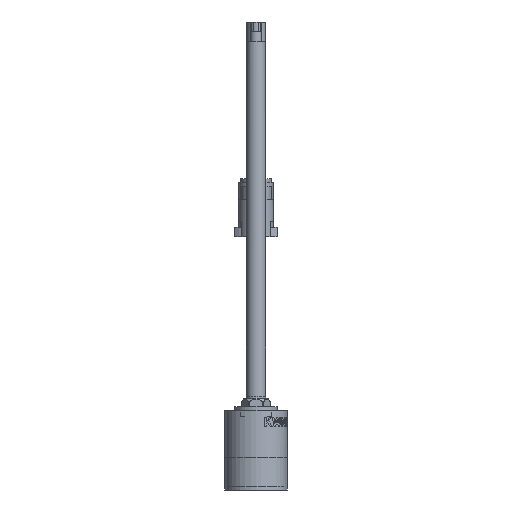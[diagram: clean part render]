
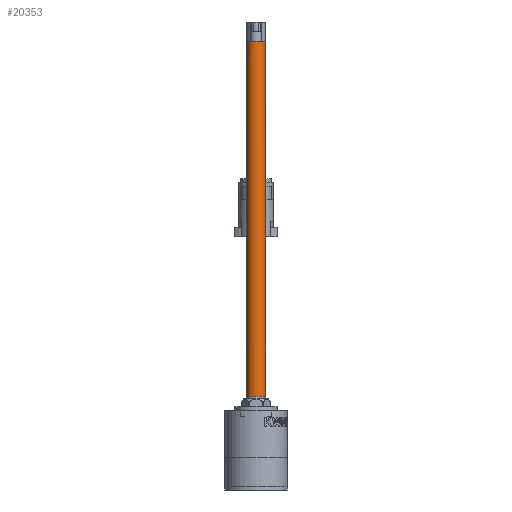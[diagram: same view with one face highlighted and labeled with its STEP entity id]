
A CAD part, left-side view. The second image highlights one B-rep face of the part: STEP entity #20353.
In plain terms, the highlighted cylindrical face has radius 5 mm (diameter 10 mm), a full revolution.
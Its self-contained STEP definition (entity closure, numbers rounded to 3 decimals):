
#11091=CYLINDRICAL_SURFACE('',#57624,5.);
#15523=CIRCLE('',#57623,5.);
#20353=ADVANCED_FACE('',(#23630,#23631),#11091,.T.);
#23630=FACE_BOUND('',#25818,.T.);
#23631=FACE_BOUND('',#25819,.T.);
#25818=EDGE_LOOP('',(#30962));
#25819=EDGE_LOOP('',(#30963));
#30962=ORIENTED_EDGE('',*,*,#46910,.T.);
#30963=ORIENTED_EDGE('',*,*,#46911,.T.);
#42290=VERTEX_POINT('',#83561);
#42291=VERTEX_POINT('',#83563);
#46910=EDGE_CURVE('',#42290,#42290,#52698,.T.);
#46911=EDGE_CURVE('',#42291,#42291,#15523,.T.);
#52698=B_SPLINE_CURVE_WITH_KNOTS('',3,(#83543,#83544,#83545,#83546,#83547,
#83548,#83549,#83550,#83551,#83552,#83553,#83554,#83555,#83556,#83557,#83558,
#83559,#83560),.UNSPECIFIED.,.T.,.F.,(2,2,2,2,2,2,2,2,2,2,2),(-0.125,0.,
0.125,0.25,0.375,0.5,0.625,0.75,0.875,1.,1.125),.UNSPECIFIED.);
#57623=AXIS2_PLACEMENT_3D('',#83562,#62163,#62164);
#57624=AXIS2_PLACEMENT_3D('',#83564,#62165,#62166);
#62163=DIRECTION('',(0.,0.,-1.));
#62164=DIRECTION('',(-1.,0.,0.));
#62165=DIRECTION('',(0.,0.,-1.));
#62166=DIRECTION('',(-1.,0.,0.));
#83543=CARTESIAN_POINT('',(-320.,1.31,48.3));
#83544=CARTESIAN_POINT('',(-320.,-1.308,48.3));
#83545=CARTESIAN_POINT('',(-319.461,-2.609,48.3));
#83546=CARTESIAN_POINT('',(-317.61,-4.461,48.3));
#83547=CARTESIAN_POINT('',(-316.31,-5.,48.3));
#83548=CARTESIAN_POINT('',(-313.692,-5.,48.3));
#83549=CARTESIAN_POINT('',(-312.391,-4.461,48.3));
#83550=CARTESIAN_POINT('',(-310.539,-2.61,48.3));
#83551=CARTESIAN_POINT('',(-310.,-1.31,48.3));
#83552=CARTESIAN_POINT('',(-310.,1.308,48.3));
#83553=CARTESIAN_POINT('',(-310.539,2.609,48.3));
#83554=CARTESIAN_POINT('',(-312.39,4.461,48.3));
#83555=CARTESIAN_POINT('',(-313.69,5.,48.3));
#83556=CARTESIAN_POINT('',(-316.308,5.,48.3));
#83557=CARTESIAN_POINT('',(-317.609,4.461,48.3));
#83558=CARTESIAN_POINT('',(-319.461,2.61,48.3));
#83559=CARTESIAN_POINT('',(-320.,1.31,48.3));
#83560=CARTESIAN_POINT('',(-320.,-1.308,48.3));
#83561=CARTESIAN_POINT('',(-320.,0.001,48.3));
#83562=CARTESIAN_POINT('',(-315.,0.,230.7));
#83563=CARTESIAN_POINT('',(-320.,0.,230.7));
#83564=CARTESIAN_POINT('',(-315.,0.,40.7));
